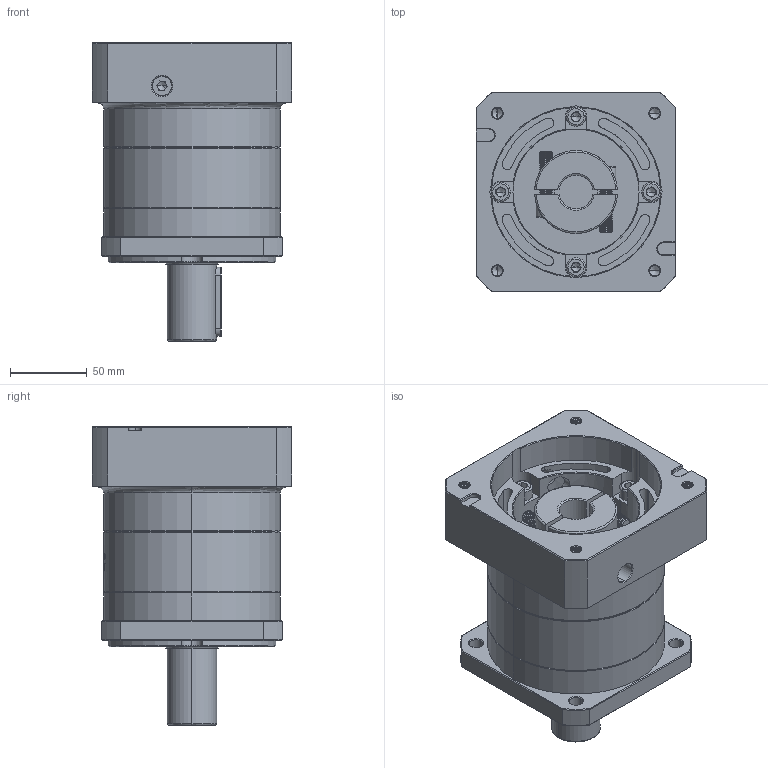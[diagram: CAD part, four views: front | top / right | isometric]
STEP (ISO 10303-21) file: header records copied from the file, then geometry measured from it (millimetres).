
FILE_DESCRIPTION (( 'STEP AP214' ), '1' );
FILE_NAME ('ZF120A-D32-L1-P2-22-110-145-M8.step', '2023-08-27T04:43:56', ( '' ), ( '' ), 'SwSTEP 2.0', 'SolidWorks 2016', '' );
FILE_SCHEMA (( 'AUTOMOTIVE_DESIGN' ));
Length unit declared in the file: millimetre
Products named in the file (1): ZF120A-D32-L1-P2-22-110-145-M8
Bounding box: 130 x 130 x 194 mm (x, y, z)
Volume: 1471038.3 mm3; surface area: 183680.5 mm2
Topology: 6 solids, 6 shells, 2276 faces, 6079 edges, 3902 vertices
Faces by surface type: plane 1060, cylinder 449, bspline 421, cone 328, torus 18
Entity records: 126569 total; most frequent: CARTESIAN_POINT 50221, ORIENTED_EDGE 12098, DIRECTION 8811, EDGE_CURVE 6049, VERTEX_POINT 3902, LINE 3173, VECTOR 3173, AXIS2_PLACEMENT_3D 2819
